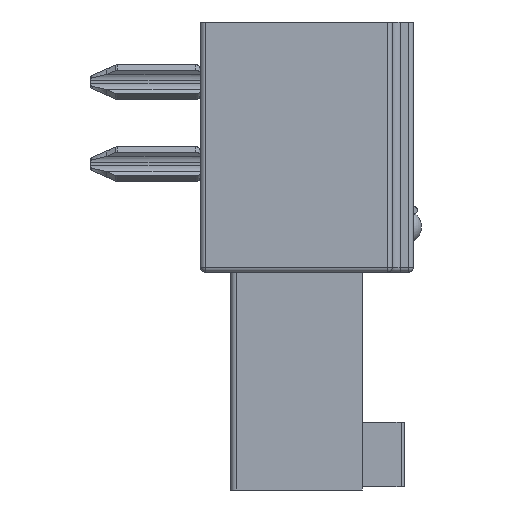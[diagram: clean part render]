
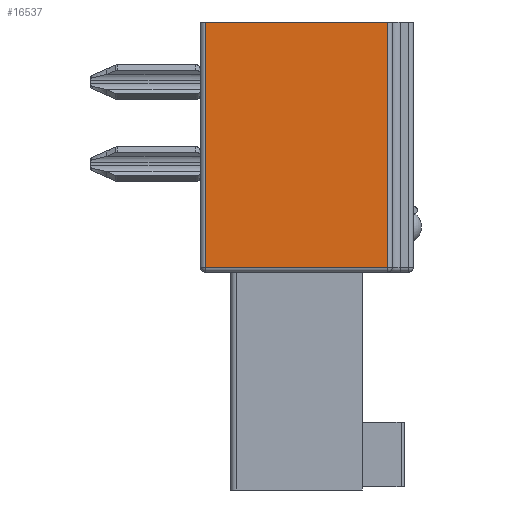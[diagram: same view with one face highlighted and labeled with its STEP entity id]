
A CAD part, left-side view. The second image highlights one B-rep face of the part: STEP entity #16537.
In plain terms, the highlighted planar face has unit normal (-1, 0, 0).
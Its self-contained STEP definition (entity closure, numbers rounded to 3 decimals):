
#36=DIRECTION('',(0.,1.,0.));
#37=VECTOR('',#36,5.65);
#38=CARTESIAN_POINT('',(9.878,1.05,-3.4));
#39=LINE('',#38,#37);
#5654=DIRECTION('',(0.,0.,-1.));
#5655=VECTOR('',#5654,7.6);
#5656=CARTESIAN_POINT('',(9.878,6.7,-3.4));
#5657=LINE('',#5656,#5655);
#5666=DIRECTION('',(0.,0.,1.));
#5667=VECTOR('',#5666,7.6);
#5668=CARTESIAN_POINT('',(9.878,1.05,-11.));
#5669=LINE('',#5668,#5667);
#5865=DIRECTION('',(0.,-1.,0.));
#5866=VECTOR('',#5865,5.65);
#5867=CARTESIAN_POINT('',(9.878,6.7,-11.));
#5868=LINE('',#5867,#5866);
#7450=CARTESIAN_POINT('',(9.878,1.05,-3.4));
#7451=VERTEX_POINT('',#7450);
#7452=CARTESIAN_POINT('',(9.878,6.7,-3.4));
#7453=VERTEX_POINT('',#7452);
#8050=CARTESIAN_POINT('',(9.878,6.7,-11.));
#8051=VERTEX_POINT('',#8050);
#8052=CARTESIAN_POINT('',(9.878,1.05,-11.));
#8053=VERTEX_POINT('',#8052);
#16524=CARTESIAN_POINT('',(9.878,3.55,-3.4));
#16525=DIRECTION('',(1.,0.,0.));
#16526=DIRECTION('',(0.,-1.,0.));
#16527=AXIS2_PLACEMENT_3D('',#16524,#16525,#16526);
#16528=PLANE('',#16527);
#16530=ORIENTED_EDGE('',*,*,#16529,.F.);
#16532=ORIENTED_EDGE('',*,*,#16531,.F.);
#16533=ORIENTED_EDGE('',*,*,#16516,.F.);
#16534=ORIENTED_EDGE('',*,*,#9175,.F.);
#16535=EDGE_LOOP('',(#16530,#16532,#16533,#16534));
#16536=FACE_OUTER_BOUND('',#16535,.F.);
#16537=ADVANCED_FACE('',(#16536),#16528,.F.);
#9175=EDGE_CURVE('',#7451,#7453,#39,.T.);
#16516=EDGE_CURVE('',#7453,#8051,#5657,.T.);
#16529=EDGE_CURVE('',#8053,#7451,#5669,.T.);
#16531=EDGE_CURVE('',#8051,#8053,#5868,.T.);
